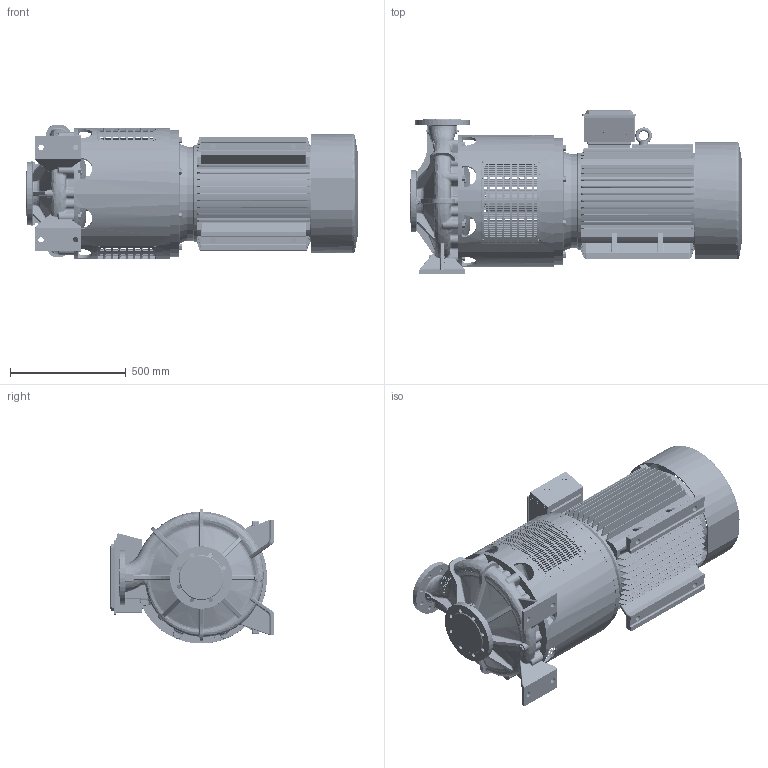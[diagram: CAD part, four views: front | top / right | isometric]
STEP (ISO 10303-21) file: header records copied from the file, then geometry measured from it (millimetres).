
FILE_DESCRIPTION((''),'2;1');
FILE_NAME('NSLH100-415_A02_MOTOR_250_ASM','2019-09-30T',('BRHE'),(''),'PRO/ENGINEER BY PARAMETRIC TECHNOLOGY CORPORATION, 2017170','PRO/ENGINEER BY PARAMETRIC TECHNOLOGY CORPORATION, 2017170','');
FILE_SCHEMA(('CONFIG_CONTROL_DESIGN'));
Products named in the file (35): 526130; 525370; 110165; 110167; 705274; 700949; 704267; 110172; 704022; 707211; 704247; 704187; 506962; 705511; 704047; 704390; 704371; 704067; 705750; 708178; 656553_ASM; 656552_ASM; 110536; 110178; 704016; 704309; 703207; 515560; 110869_AF0; 706717; 704279; 704048_AF0; 673422_ASM; 844522; NSLH100-415_A02_MOTOR_250_ASM
Assembly tree (101 placements, depth 4):
  NSLH100-415_A02_MOTOR_250_ASM
    656552_ASM
      656553_ASM
        526130
        525370
        110165
        110167
        705274
        700949
        704267
        110172
        704022
        707211
        704247
        704187
        506962
        705511
        704047
        704390  x5
        704371  x4
        704067  x16
        705750  x16
        708178  x2
    673422_ASM
      110536
      110178
      704016  x8
      704309  x8
      703207
      515560
      110869_AF0  x2
      706717  x8
      704279  x8
      704048_AF0
    844522
Bounding box: 1436 x 710 x 583.86 mm (x, y, z)
Volume: 156744766 mm3; surface area: 9151532.7 mm2
Topology: 107 solids, 184 shells, 7742 faces, 21000 edges, 13538 vertices
Faces by surface type: plane 3278, bspline 1722, cylinder 1688, cone 670, torus 220, sphere 107, extrusion 57
Entity records: 321668 total; most frequent: CARTESIAN_POINT 189584, ORIENTED_EDGE 29450, DIRECTION 23492, EDGE_CURVE 14874, VERTEX_POINT 9656, AXIS2_PLACEMENT_3D 8187, VECTOR 7118, LINE 7061
